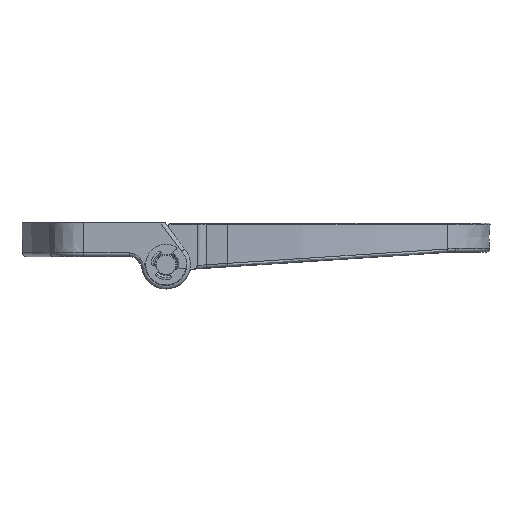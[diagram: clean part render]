
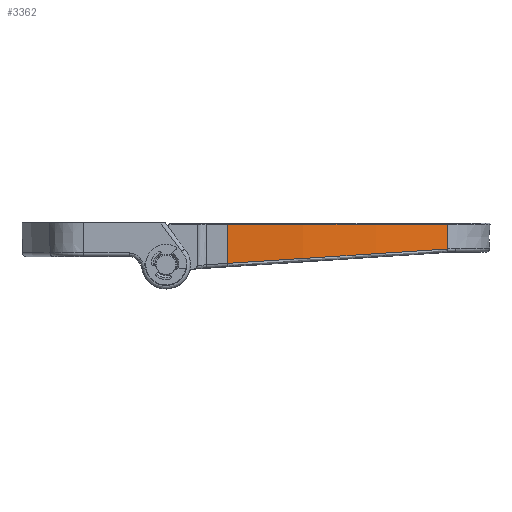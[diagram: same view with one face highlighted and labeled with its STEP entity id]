
A CAD part, left-side view. The second image highlights one B-rep face of the part: STEP entity #3362.
In plain terms, the highlighted conical face has half-angle 1 degrees and reference radius 159 mm.
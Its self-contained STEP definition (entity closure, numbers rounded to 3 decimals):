
#345 = DIRECTION ( 'NONE',  ( 1., 0., 0. ) ) ;
#1016 = CARTESIAN_POINT ( 'NONE',  ( -77.24, -39.216, 8.218 ) ) ;
#1234 = B_SPLINE_CURVE_WITH_KNOTS ( 'NONE', 3,
 ( #17812, #14526, #4274, #14308, #10920, #1016, #6253, #4382, #17917, #11031, #2755, #21184, #16161, #12990 ),
 .UNSPECIFIED., .F., .F.,
 ( 4, 2, 2, 2, 2, 2, 4 ),
 ( 0., 0.008, 0.016, 0.031, 0.039, 0.047, 0.063 ),
 .UNSPECIFIED. ) ;
#1554 = VERTEX_POINT ( 'NONE', #12637 ) ;
#2755 = CARTESIAN_POINT ( 'NONE',  ( -72.419, -62.166, 9.718 ) ) ;
#3362 = ADVANCED_FACE ( 'NONE', ( #20296 ), #20127, .T. ) ;
#3481 = ORIENTED_EDGE ( 'NONE', *, *, #9792, .T. ) ;
#3674 = CARTESIAN_POINT ( 'NONE',  ( -66.491, -79.465, 18. ) ) ;
#3716 = CARTESIAN_POINT ( 'NONE',  ( 80.3, -18.363, 18. ) ) ;
#3897 = CARTESIAN_POINT ( 'NONE',  ( -78.505, -18.363, 6.856 ) ) ;
#4274 = CARTESIAN_POINT ( 'NONE',  ( -78.446, -23.595, 7.198 ) ) ;
#4382 = CARTESIAN_POINT ( 'NONE',  ( -74.956, -52.03, 9.055 ) ) ;
#4790 = EDGE_CURVE ( 'NONE', #13606, #1554, #13529, .T. ) ;
#5121 = ORIENTED_EDGE ( 'NONE', *, *, #6185, .F. ) ;
#5732 = CARTESIAN_POINT ( 'NONE',  ( 80.3, -18.363, 17.695 ) ) ;
#6041 = VECTOR ( 'NONE', #20684, 1000. ) ;
#6185 = EDGE_CURVE ( 'NONE', #13606, #6996, #13372, .T. ) ;
#6253 = CARTESIAN_POINT ( 'NONE',  ( -76.478, -44.366, 8.555 ) ) ;
#6996 = VERTEX_POINT ( 'NONE', #7700 ) ;
#7700 = CARTESIAN_POINT ( 'NONE',  ( -66.375, -79.417, 10.845 ) ) ;
#8470 = DIRECTION ( 'NONE',  ( 0.016, 0.007, -1. ) ) ;
#9666 = VECTOR ( 'NONE', #8470, 1000. ) ;
#9712 = AXIS2_PLACEMENT_3D ( 'NONE', #5732, #17081, #15431 ) ;
#9792 = EDGE_CURVE ( 'NONE', #21435, #6996, #1234, .T. ) ;
#10853 = ORIENTED_EDGE ( 'NONE', *, *, #13884, .T. ) ;
#10920 = CARTESIAN_POINT ( 'NONE',  ( -78.003, -31.428, 7.71 ) ) ;
#11031 = CARTESIAN_POINT ( 'NONE',  ( -73.118, -59.641, 9.553 ) ) ;
#11259 = ORIENTED_EDGE ( 'NONE', *, *, #4790, .T. ) ;
#12075 = LINE ( 'NONE', #13690, #6041 ) ;
#12637 = CARTESIAN_POINT ( 'NONE',  ( -78.694, -18.363, 17.695 ) ) ;
#12990 = CARTESIAN_POINT ( 'NONE',  ( -66.375, -79.417, 10.845 ) ) ;
#13275 = EDGE_LOOP ( 'NONE', ( #5121, #11259, #10853, #3481 ) ) ;
#13372 = LINE ( 'NONE', #3674, #9666 ) ;
#13529 = CIRCLE ( 'NONE', #9712, 158.995 ) ;
#13606 = VERTEX_POINT ( 'NONE', #18967 ) ;
#13690 = CARTESIAN_POINT ( 'NONE',  ( -78.7, -18.363, 18. ) ) ;
#13884 = EDGE_CURVE ( 'NONE', #1554, #21435, #12075, .T. ) ;
#14308 = CARTESIAN_POINT ( 'NONE',  ( -78.194, -28.82, 7.539 ) ) ;
#14526 = CARTESIAN_POINT ( 'NONE',  ( -78.508, -20.979, 7.027 ) ) ;
#15274 = DIRECTION ( 'NONE',  ( 0., 0., 1. ) ) ;
#15431 = DIRECTION ( 'NONE',  ( 1., 0., 0. ) ) ;
#16161 = CARTESIAN_POINT ( 'NONE',  ( -68.381, -74.583, 10.529 ) ) ;
#17081 = DIRECTION ( 'NONE',  ( 0., 0., -1. ) ) ;
#17812 = CARTESIAN_POINT ( 'NONE',  ( -78.505, -18.363, 6.856 ) ) ;
#17917 = CARTESIAN_POINT ( 'NONE',  ( -74.386, -54.574, 9.222 ) ) ;
#18376 = AXIS2_PLACEMENT_3D ( 'NONE', #3716, #15274, #345 ) ;
#18967 = CARTESIAN_POINT ( 'NONE',  ( -66.486, -79.463, 17.695 ) ) ;
#20127 = CONICAL_SURFACE ( 'NONE', #18376, 159., 0.017 ) ;
#20296 = FACE_OUTER_BOUND ( 'NONE', #13275, .T. ) ;
#20684 = DIRECTION ( 'NONE',  ( 0.017, 0., -1. ) ) ;
#21184 = CARTESIAN_POINT ( 'NONE',  ( -70.143, -69.666, 10.208 ) ) ;
#21435 = VERTEX_POINT ( 'NONE', #3897 ) ;
